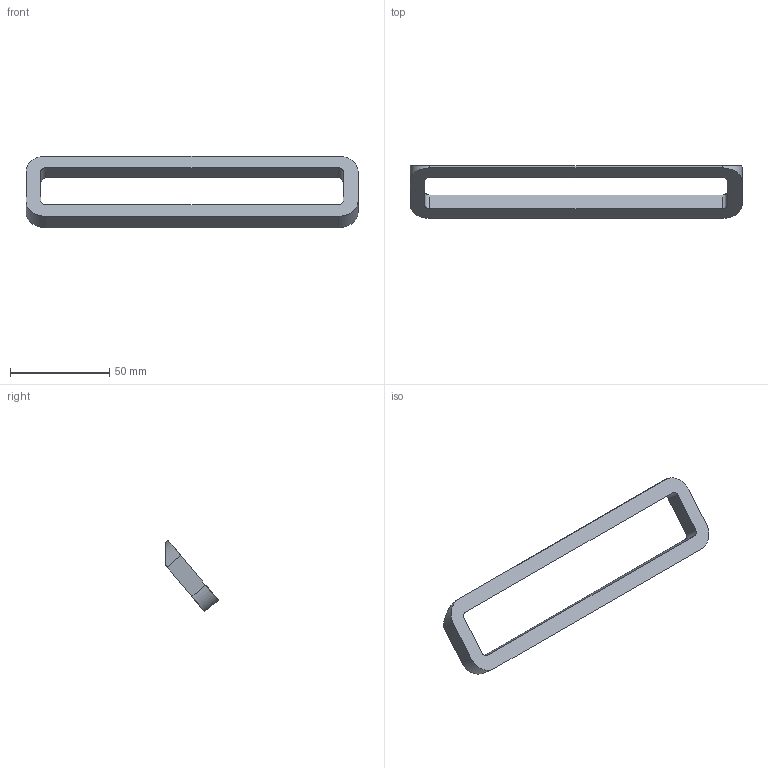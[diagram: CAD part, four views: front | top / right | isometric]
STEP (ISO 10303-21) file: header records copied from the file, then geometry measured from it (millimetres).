
FILE_DESCRIPTION( ( 'STEP AP214' ), '1' );
FILE_NAME( 'C:/Users/swati/Desktop/buena/9207446/9207447.stp', ' ', ( ' ' ), ( ' ' ), 'PSStep 15.0.47', 'PARTsolutions', ' ' );
FILE_SCHEMA( ( 'AUTOMOTIVE_DESIGN { 1 0 10303 214 1 1 1 1 }' ) );
Length unit declared in the file: millimetre
Products named in the file (2): 95 ; _
Assembly tree (1 placements, depth 2):
  95 
    _
Bounding box: 167.5 x 26.54 x 36.04 mm (x, y, z)
Volume: 19773.9 mm3; surface area: 11441.7 mm2
Topology: 1 solids, 1 shells, 23 faces, 60 edges, 40 vertices
Faces by surface type: plane 13, cylinder 10
Full cylindrical faces by diameter (mm): 4 x2
Entity records: 934 total; most frequent: DIRECTION 132, CARTESIAN_POINT 123, ORIENTED_EDGE 116, EDGE_CURVE 58, AXIS2_PLACEMENT_3D 49, VERTEX_POINT 40, LINE 34, VECTOR 34
